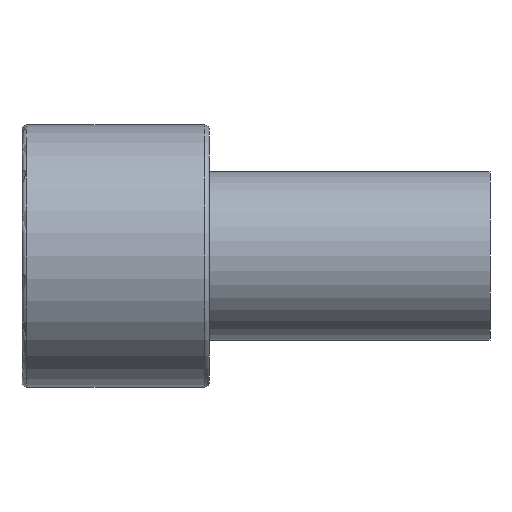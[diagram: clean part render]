
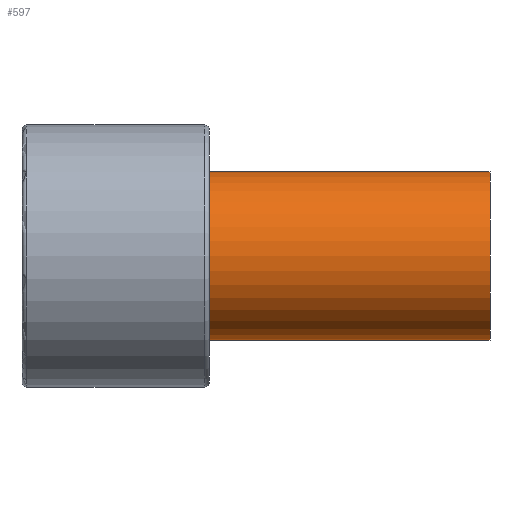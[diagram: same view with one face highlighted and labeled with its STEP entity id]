
A CAD part, front view. The second image highlights one B-rep face of the part: STEP entity #597.
In plain terms, the highlighted cylindrical face has radius 9 mm (diameter 18 mm), a partial arc.
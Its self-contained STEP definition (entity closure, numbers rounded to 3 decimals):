
#431=CARTESIAN_POINT('Vertex',(50.,0.,9.)) ;
#434=CARTESIAN_POINT('Axis2P3D Location',(50.,0.,0.)) ;
#438=CARTESIAN_POINT('Vertex',(50.,-9.,0.)) ;
#441=CARTESIAN_POINT('Axis2P3D Location',(50.,0.,0.)) ;
#445=CARTESIAN_POINT('Vertex',(50.,0.,-9.)) ;
#537=CARTESIAN_POINT('Line Origine',(50.,0.,9.)) ;
#541=CARTESIAN_POINT('Vertex',(20.,0.,9.)) ;
#544=CARTESIAN_POINT('Line Origine',(50.,0.,-9.)) ;
#548=CARTESIAN_POINT('Vertex',(20.,0.,-9.)) ;
#572=CARTESIAN_POINT('Axis2P3D Location',(50.,0.,0.)) ;
#577=CARTESIAN_POINT('Axis2P3D Location',(20.,0.,0.)) ;
#581=CARTESIAN_POINT('Vertex',(20.,-9.,0.)) ;
#584=CARTESIAN_POINT('Axis2P3D Location',(20.,0.,0.)) ;
#435=DIRECTION('Axis2P3D Direction',(1.,0.,-0.)) ;
#442=DIRECTION('Axis2P3D Direction',(1.,0.,-0.)) ;
#538=DIRECTION('Vector Direction',(-1.,0.,0.)) ;
#545=DIRECTION('Vector Direction',(-1.,0.,0.)) ;
#573=DIRECTION('Axis2P3D Direction',(-1.,-0.,-0.)) ;
#574=DIRECTION('Axis2P3D XDirection',(0.,0.,-1.)) ;
#578=DIRECTION('Axis2P3D Direction',(-1.,-0.,-0.)) ;
#585=DIRECTION('Axis2P3D Direction',(-1.,-0.,-0.)) ;
#436=AXIS2_PLACEMENT_3D('Circle Axis2P3D',#434,#435,$) ;
#443=AXIS2_PLACEMENT_3D('Circle Axis2P3D',#441,#442,$) ;
#575=AXIS2_PLACEMENT_3D('Cylinder Axis2P3D',#572,#573,#574) ;
#579=AXIS2_PLACEMENT_3D('Circle Axis2P3D',#577,#578,$) ;
#586=AXIS2_PLACEMENT_3D('Circle Axis2P3D',#584,#585,$) ;
#590=ORIENTED_EDGE('',*,*,#550,.T.) ;
#591=ORIENTED_EDGE('',*,*,#447,.F.) ;
#592=ORIENTED_EDGE('',*,*,#440,.F.) ;
#593=ORIENTED_EDGE('',*,*,#543,.T.) ;
#594=ORIENTED_EDGE('',*,*,#583,.T.) ;
#595=ORIENTED_EDGE('',*,*,#588,.T.) ;
#539=VECTOR('Line Direction',#538,1.) ;
#546=VECTOR('Line Direction',#545,1.) ;
#597=ADVANCED_FACE('367F-18X50',(#596),#576,.T.) ;
#437=CIRCLE('generated circle',#436,9.) ;
#444=CIRCLE('generated circle',#443,9.) ;
#580=CIRCLE('generated circle',#579,9.) ;
#587=CIRCLE('generated circle',#586,9.) ;
#576=CYLINDRICAL_SURFACE('generated cylinder',#575,9.) ;
#440=EDGE_CURVE('',#432,#439,#437,.T.) ;
#447=EDGE_CURVE('',#439,#446,#444,.T.) ;
#543=EDGE_CURVE('',#432,#542,#540,.T.) ;
#550=EDGE_CURVE('',#549,#446,#547,.F.) ;
#583=EDGE_CURVE('',#542,#582,#580,.F.) ;
#588=EDGE_CURVE('',#582,#549,#587,.F.) ;
#589=EDGE_LOOP('',(#590,#591,#592,#593,#594,#595)) ;
#596=FACE_OUTER_BOUND('',#589,.T.) ;
#540=LINE('Line',#537,#539) ;
#547=LINE('Line',#544,#546) ;
#432=VERTEX_POINT('',#431) ;
#439=VERTEX_POINT('',#438) ;
#446=VERTEX_POINT('',#445) ;
#542=VERTEX_POINT('',#541) ;
#549=VERTEX_POINT('',#548) ;
#582=VERTEX_POINT('',#581) ;
